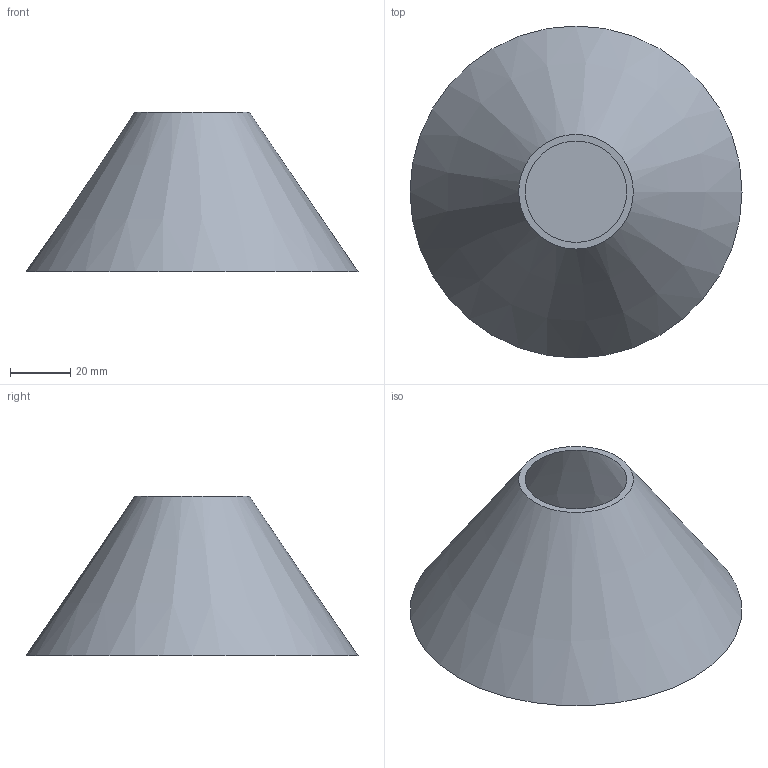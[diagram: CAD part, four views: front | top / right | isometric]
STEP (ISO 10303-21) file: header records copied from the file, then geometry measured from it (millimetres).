
FILE_DESCRIPTION(('Open CASCADE Model'),'2;1');
FILE_NAME('Open CASCADE Shape Model','2026-10-20T19:46:50',('Author'),( 'Open CASCADE'),'Open CASCADE STEP processor 8.0','build123d', 'Unknown');
FILE_SCHEMA(('AUTOMOTIVE_DESIGN { 1 0 10303 214 1 1 1 1 }'));
Length unit declared in the file: millimetre
Products named in the file (2): =>[0:1:1:2]; COMPOUND
Assembly tree (1 placements, depth 2):
  =>[0:1:1:2]
    COMPOUND
Bounding box: 110 x 110 x 53 mm (x, y, z)
Volume: 34246.8 mm3; surface area: 46994.6 mm2
Topology: 1 solids, 1 shells, 5 faces, 6 edges, 4 vertices
Faces by surface type: plane 3, cone 2
Entity records: 210 total; most frequent: DIRECTION 36, CARTESIAN_POINT 29, ORIENTED_EDGE 12, PCURVE 12, DEFINITIONAL_REPRESENTATION 12, AXIS2_PLACEMENT_3D 11, LINE 10, VECTOR 10
